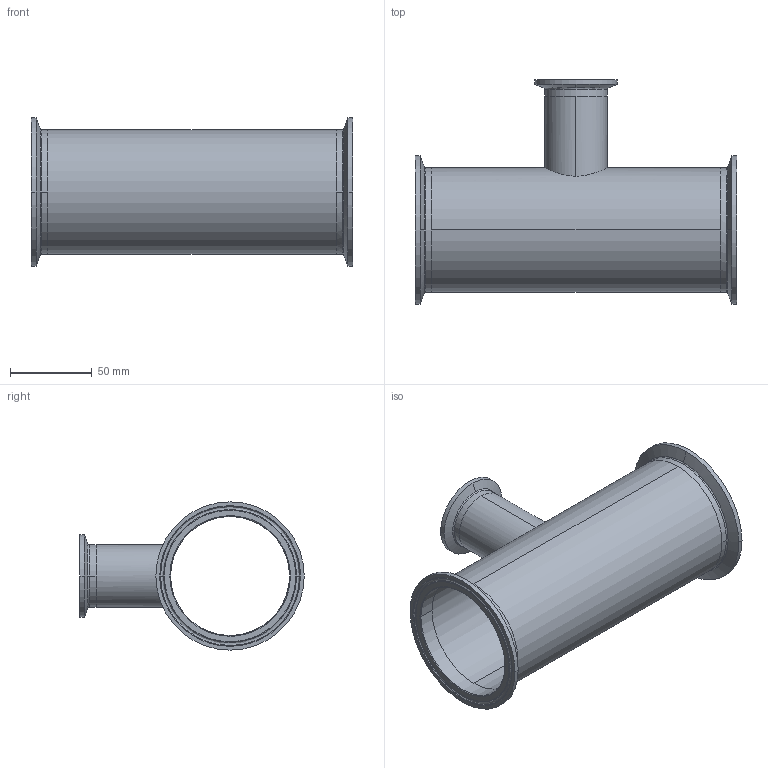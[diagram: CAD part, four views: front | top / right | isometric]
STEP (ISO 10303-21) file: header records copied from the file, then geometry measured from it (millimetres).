
FILE_DESCRIPTION (( 'STEP AP214' ), '1' );
FILE_NAME ('TEG7R6L3.0x1.5-...STEP', '2016-05-24T07:15:41', ( 'eran' ), ( '' ), 'SwSTEP 2.0', 'SolidWorks 2016', '' );
FILE_SCHEMA (( 'AUTOMOTIVE_DESIGN' ));
Length unit declared in the file: millimetre
Products named in the file (1): TEG7R6L3.0x1.5-..
Bounding box: 196.8 x 137.55 x 90.91 mm (x, y, z)
Volume: 103576.9 mm3; surface area: 114721.5 mm2
Topology: 4 solids, 4 shells, 86 faces, 214 edges, 140 vertices
Faces by surface type: bspline 30, cylinder 26, cone 18, plane 12
Entity records: 4914 total; most frequent: CARTESIAN_POINT 2799, DIRECTION 454, ORIENTED_EDGE 428, EDGE_CURVE 214, AXIS2_PLACEMENT_3D 205, CIRCLE 148, VERTEX_POINT 140, EDGE_LOOP 100
